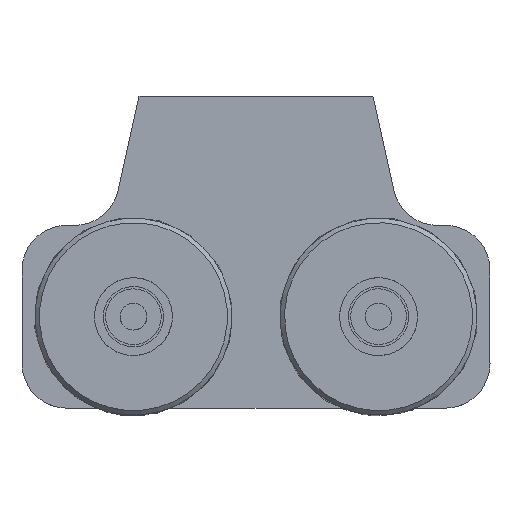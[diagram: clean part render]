
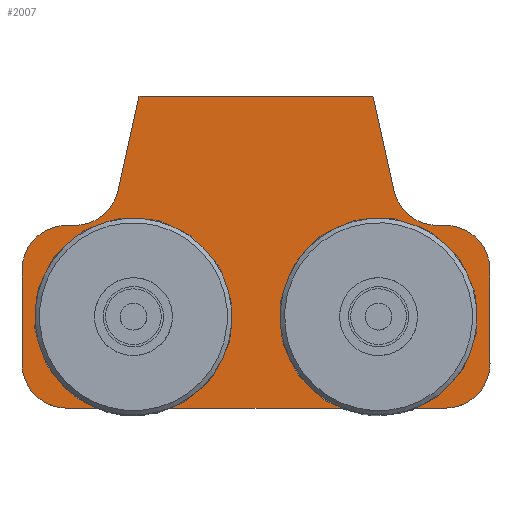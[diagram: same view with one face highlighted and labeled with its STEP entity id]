
A CAD part, top view. The second image highlights one B-rep face of the part: STEP entity #2007.
In plain terms, the highlighted planar face has unit normal (0, 0, 1).
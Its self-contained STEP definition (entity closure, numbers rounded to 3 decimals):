
#195=FACE_BOUND('',#530,.T.);
#196=FACE_BOUND('',#531,.T.);
#258=CIRCLE('',#2105,10.);
#260=CIRCLE('',#2111,10.);
#262=CIRCLE('',#2118,10.);
#264=CIRCLE('',#2124,10.);
#266=CIRCLE('',#2129,20.);
#268=CIRCLE('',#2133,20.);
#270=CIRCLE('',#2137,20.);
#272=CIRCLE('',#2141,20.);
#274=CIRCLE('',#2145,20.);
#276=CIRCLE('',#2149,20.);
#417=FACE_OUTER_BOUND('',#529,.T.);
#529=EDGE_LOOP('',(#1504,#1505,#1506,#1507,#1508,#1509,#1510,#1511,#1512,
#1513,#1514,#1515,#1516,#1517));
#530=EDGE_LOOP('',(#1518,#1519,#1520,#1521,#1522,#1523,#1524,#1525));
#531=EDGE_LOOP('',(#1526,#1527,#1528,#1529,#1530,#1531,#1532,#1533));
#683=LINE('',#2974,#799);
#686=LINE('',#2980,#802);
#689=LINE('',#2986,#805);
#693=LINE('',#2998,#809);
#696=LINE('',#3004,#812);
#699=LINE('',#3009,#815);
#701=LINE('',#3014,#817);
#706=LINE('',#3028,#822);
#709=LINE('',#3034,#825);
#712=LINE('',#3040,#828);
#716=LINE('',#3052,#832);
#719=LINE('',#3057,#835);
#723=LINE('',#3070,#839);
#727=LINE('',#3082,#843);
#731=LINE('',#3094,#847);
#735=LINE('',#3106,#851);
#739=LINE('',#3118,#855);
#743=LINE('',#3130,#859);
#746=LINE('',#3136,#862);
#749=LINE('',#3141,#865);
#799=VECTOR('',#2373,3.87);
#802=VECTOR('',#2378,8.);
#805=VECTOR('',#2383,3.87);
#809=VECTOR('',#2395,3.87);
#812=VECTOR('',#2400,8.);
#815=VECTOR('',#2405,3.87);
#817=VECTOR('',#2409,3.87);
#822=VECTOR('',#2422,3.87);
#825=VECTOR('',#2427,8.);
#828=VECTOR('',#2432,3.87);
#832=VECTOR('',#2444,3.87);
#835=VECTOR('',#2449,8.);
#839=VECTOR('',#2461,3.59);
#843=VECTOR('',#2473,42.);
#847=VECTOR('',#2485,170.);
#851=VECTOR('',#2497,42.);
#855=VECTOR('',#2509,3.59);
#859=VECTOR('',#2521,43.357);
#862=VECTOR('',#2526,105.);
#865=VECTOR('',#2531,43.357);
#909=VERTEX_POINT('',#2964);
#910=VERTEX_POINT('',#2965);
#913=VERTEX_POINT('',#2973);
#915=VERTEX_POINT('',#2979);
#917=VERTEX_POINT('',#2985);
#919=VERTEX_POINT('',#2991);
#921=VERTEX_POINT('',#2997);
#923=VERTEX_POINT('',#3003);
#925=VERTEX_POINT('',#3012);
#926=VERTEX_POINT('',#3013);
#929=VERTEX_POINT('',#3021);
#931=VERTEX_POINT('',#3027);
#933=VERTEX_POINT('',#3033);
#935=VERTEX_POINT('',#3039);
#937=VERTEX_POINT('',#3045);
#939=VERTEX_POINT('',#3051);
#941=VERTEX_POINT('',#3060);
#942=VERTEX_POINT('',#3061);
#945=VERTEX_POINT('',#3069);
#947=VERTEX_POINT('',#3075);
#949=VERTEX_POINT('',#3081);
#951=VERTEX_POINT('',#3087);
#953=VERTEX_POINT('',#3093);
#955=VERTEX_POINT('',#3099);
#957=VERTEX_POINT('',#3105);
#959=VERTEX_POINT('',#3111);
#961=VERTEX_POINT('',#3117);
#963=VERTEX_POINT('',#3123);
#965=VERTEX_POINT('',#3129);
#967=VERTEX_POINT('',#3135);
#1107=EDGE_CURVE('',#909,#910,#258,.T.);
#1111=EDGE_CURVE('',#910,#913,#683,.T.);
#1114=EDGE_CURVE('',#913,#915,#686,.T.);
#1117=EDGE_CURVE('',#915,#917,#689,.T.);
#1120=EDGE_CURVE('',#917,#919,#260,.T.);
#1123=EDGE_CURVE('',#919,#921,#693,.T.);
#1126=EDGE_CURVE('',#921,#923,#696,.T.);
#1129=EDGE_CURVE('',#923,#909,#699,.T.);
#1131=EDGE_CURVE('',#925,#926,#701,.T.);
#1135=EDGE_CURVE('',#926,#929,#262,.T.);
#1138=EDGE_CURVE('',#929,#931,#706,.T.);
#1141=EDGE_CURVE('',#931,#933,#709,.T.);
#1144=EDGE_CURVE('',#933,#935,#712,.T.);
#1147=EDGE_CURVE('',#935,#937,#264,.T.);
#1150=EDGE_CURVE('',#937,#939,#716,.T.);
#1153=EDGE_CURVE('',#939,#925,#719,.T.);
#1155=EDGE_CURVE('',#941,#942,#266,.T.);
#1159=EDGE_CURVE('',#942,#945,#723,.T.);
#1162=EDGE_CURVE('',#945,#947,#268,.T.);
#1165=EDGE_CURVE('',#947,#949,#727,.T.);
#1168=EDGE_CURVE('',#949,#951,#270,.T.);
#1171=EDGE_CURVE('',#951,#953,#731,.T.);
#1174=EDGE_CURVE('',#953,#955,#272,.T.);
#1177=EDGE_CURVE('',#955,#957,#735,.T.);
#1180=EDGE_CURVE('',#957,#959,#274,.T.);
#1183=EDGE_CURVE('',#959,#961,#739,.T.);
#1186=EDGE_CURVE('',#961,#963,#276,.T.);
#1189=EDGE_CURVE('',#963,#965,#743,.T.);
#1192=EDGE_CURVE('',#965,#967,#746,.T.);
#1195=EDGE_CURVE('',#967,#941,#749,.T.);
#1504=ORIENTED_EDGE('',*,*,#1155,.F.);
#1505=ORIENTED_EDGE('',*,*,#1195,.F.);
#1506=ORIENTED_EDGE('',*,*,#1192,.F.);
#1507=ORIENTED_EDGE('',*,*,#1189,.F.);
#1508=ORIENTED_EDGE('',*,*,#1186,.F.);
#1509=ORIENTED_EDGE('',*,*,#1183,.F.);
#1510=ORIENTED_EDGE('',*,*,#1180,.F.);
#1511=ORIENTED_EDGE('',*,*,#1177,.F.);
#1512=ORIENTED_EDGE('',*,*,#1174,.F.);
#1513=ORIENTED_EDGE('',*,*,#1171,.F.);
#1514=ORIENTED_EDGE('',*,*,#1168,.F.);
#1515=ORIENTED_EDGE('',*,*,#1165,.F.);
#1516=ORIENTED_EDGE('',*,*,#1162,.F.);
#1517=ORIENTED_EDGE('',*,*,#1159,.F.);
#1518=ORIENTED_EDGE('',*,*,#1107,.T.);
#1519=ORIENTED_EDGE('',*,*,#1111,.T.);
#1520=ORIENTED_EDGE('',*,*,#1114,.T.);
#1521=ORIENTED_EDGE('',*,*,#1117,.T.);
#1522=ORIENTED_EDGE('',*,*,#1120,.T.);
#1523=ORIENTED_EDGE('',*,*,#1123,.T.);
#1524=ORIENTED_EDGE('',*,*,#1126,.T.);
#1525=ORIENTED_EDGE('',*,*,#1129,.T.);
#1526=ORIENTED_EDGE('',*,*,#1131,.T.);
#1527=ORIENTED_EDGE('',*,*,#1135,.T.);
#1528=ORIENTED_EDGE('',*,*,#1138,.T.);
#1529=ORIENTED_EDGE('',*,*,#1141,.T.);
#1530=ORIENTED_EDGE('',*,*,#1144,.T.);
#1531=ORIENTED_EDGE('',*,*,#1147,.T.);
#1532=ORIENTED_EDGE('',*,*,#1150,.T.);
#1533=ORIENTED_EDGE('',*,*,#1153,.T.);
#1927=PLANE('',#2154);
#2007=ADVANCED_FACE('',(#417,#195,#196),#1927,.T.);
#2105=AXIS2_PLACEMENT_3D('',#2966,#2365,#2366);
#2111=AXIS2_PLACEMENT_3D('',#2992,#2388,#2389);
#2118=AXIS2_PLACEMENT_3D('',#3022,#2415,#2416);
#2124=AXIS2_PLACEMENT_3D('',#3046,#2437,#2438);
#2129=AXIS2_PLACEMENT_3D('',#3062,#2453,#2454);
#2133=AXIS2_PLACEMENT_3D('',#3076,#2466,#2467);
#2137=AXIS2_PLACEMENT_3D('',#3088,#2478,#2479);
#2141=AXIS2_PLACEMENT_3D('',#3100,#2490,#2491);
#2145=AXIS2_PLACEMENT_3D('',#3112,#2502,#2503);
#2149=AXIS2_PLACEMENT_3D('',#3124,#2514,#2515);
#2154=AXIS2_PLACEMENT_3D('',#3143,#2533,#2534);
#2365=DIRECTION('center_axis',(0.,0.,-1.));
#2366=DIRECTION('ref_axis',(-0.933,-0.36,0.));
#2373=DIRECTION('',(1.,0.,0.));
#2378=DIRECTION('',(0.,-1.,0.));
#2383=DIRECTION('',(-1.,0.,0.));
#2388=DIRECTION('center_axis',(0.,0.,-1.));
#2389=DIRECTION('ref_axis',(0.933,0.36,0.));
#2395=DIRECTION('',(-1.,0.,0.));
#2400=DIRECTION('',(0.,1.,0.));
#2405=DIRECTION('',(1.,0.,0.));
#2409=DIRECTION('',(1.,0.,0.));
#2415=DIRECTION('center_axis',(0.,0.,-1.));
#2416=DIRECTION('ref_axis',(0.933,0.36,0.));
#2422=DIRECTION('',(1.,0.,0.));
#2427=DIRECTION('',(0.,-1.,0.));
#2432=DIRECTION('',(-1.,0.,0.));
#2437=DIRECTION('center_axis',(0.,0.,-1.));
#2438=DIRECTION('ref_axis',(-0.933,-0.36,0.));
#2444=DIRECTION('',(-1.,0.,0.));
#2449=DIRECTION('',(0.,1.,0.));
#2453=DIRECTION('center_axis',(0.,0.,1.));
#2454=DIRECTION('ref_axis',(-0.976,-0.216,0.));
#2461=DIRECTION('',(1.,0.,0.));
#2466=DIRECTION('center_axis',(0.,0.,-1.));
#2467=DIRECTION('ref_axis',(-1.,0.,0.));
#2473=DIRECTION('',(0.,-1.,0.));
#2478=DIRECTION('center_axis',(0.,0.,-1.));
#2479=DIRECTION('ref_axis',(0.,1.,0.));
#2485=DIRECTION('',(-1.,0.,0.));
#2490=DIRECTION('center_axis',(0.,0.,-1.));
#2491=DIRECTION('ref_axis',(1.,0.,0.));
#2497=DIRECTION('',(0.,1.,0.));
#2502=DIRECTION('center_axis',(0.,0.,-1.));
#2503=DIRECTION('ref_axis',(0.,-1.,0.));
#2509=DIRECTION('',(1.,0.,0.));
#2514=DIRECTION('center_axis',(0.,0.,1.));
#2515=DIRECTION('ref_axis',(0.,-1.,0.));
#2521=DIRECTION('',(0.216,0.976,0.));
#2526=DIRECTION('',(1.,0.,0.));
#2531=DIRECTION('',(0.216,-0.976,0.));
#2533=DIRECTION('center_axis',(0.,0.,1.));
#2534=DIRECTION('ref_axis',(1.,0.,0.));
#2964=CARTESIAN_POINT('',(-64.33,4.,15.));
#2965=CARTESIAN_POINT('',(-45.67,4.,15.));
#2966=CARTESIAN_POINT('Origin',(-55.,0.4,15.));
#2973=CARTESIAN_POINT('',(-41.8,4.,15.));
#2974=CARTESIAN_POINT('',(-22.835,4.,15.));
#2979=CARTESIAN_POINT('',(-41.8,-4.,15.));
#2980=CARTESIAN_POINT('',(-41.8,12.274,15.));
#2985=CARTESIAN_POINT('',(-45.67,-4.,15.));
#2986=CARTESIAN_POINT('',(-20.9,-4.,15.));
#2991=CARTESIAN_POINT('',(-64.33,-4.,15.));
#2992=CARTESIAN_POINT('Origin',(-55.,-0.4,15.));
#2997=CARTESIAN_POINT('',(-68.2,-4.,15.));
#2998=CARTESIAN_POINT('',(-32.165,-4.,15.));
#3003=CARTESIAN_POINT('',(-68.2,4.,15.));
#3004=CARTESIAN_POINT('',(-68.2,8.274,15.));
#3009=CARTESIAN_POINT('',(-34.1,4.,15.));
#3012=CARTESIAN_POINT('',(41.8,4.,15.));
#3013=CARTESIAN_POINT('',(45.67,4.,15.));
#3014=CARTESIAN_POINT('',(20.9,4.,15.));
#3021=CARTESIAN_POINT('',(64.33,4.,15.));
#3022=CARTESIAN_POINT('Origin',(55.,0.4,15.));
#3027=CARTESIAN_POINT('',(68.2,4.,15.));
#3028=CARTESIAN_POINT('',(32.165,4.,15.));
#3033=CARTESIAN_POINT('',(68.2,-4.,15.));
#3034=CARTESIAN_POINT('',(68.2,12.274,15.));
#3039=CARTESIAN_POINT('',(64.33,-4.,15.));
#3040=CARTESIAN_POINT('',(34.1,-4.,15.));
#3045=CARTESIAN_POINT('',(45.67,-4.,15.));
#3046=CARTESIAN_POINT('Origin',(55.,-0.4,15.));
#3051=CARTESIAN_POINT('',(41.8,-4.,15.));
#3052=CARTESIAN_POINT('',(22.835,-4.,15.));
#3057=CARTESIAN_POINT('',(41.8,8.274,15.));
#3060=CARTESIAN_POINT('',(61.884,56.671,15.));
#3061=CARTESIAN_POINT('',(81.41,41.,15.));
#3062=CARTESIAN_POINT('Origin',(81.41,61.,15.));
#3069=CARTESIAN_POINT('',(85.,41.,15.));
#3070=CARTESIAN_POINT('',(81.41,41.,15.));
#3075=CARTESIAN_POINT('',(105.,21.,15.));
#3076=CARTESIAN_POINT('Origin',(85.,21.,15.));
#3081=CARTESIAN_POINT('',(105.,-21.,15.));
#3082=CARTESIAN_POINT('',(105.,21.,15.));
#3087=CARTESIAN_POINT('',(85.,-41.,15.));
#3088=CARTESIAN_POINT('Origin',(85.,-21.,15.));
#3093=CARTESIAN_POINT('',(-85.,-41.,15.));
#3094=CARTESIAN_POINT('',(85.,-41.,15.));
#3099=CARTESIAN_POINT('',(-105.,-21.,15.));
#3100=CARTESIAN_POINT('Origin',(-85.,-21.,15.));
#3105=CARTESIAN_POINT('',(-105.,21.,15.));
#3106=CARTESIAN_POINT('',(-105.,-21.,15.));
#3111=CARTESIAN_POINT('',(-85.,41.,15.));
#3112=CARTESIAN_POINT('Origin',(-85.,21.,15.));
#3117=CARTESIAN_POINT('',(-81.41,41.,15.));
#3118=CARTESIAN_POINT('',(-85.,41.,15.));
#3123=CARTESIAN_POINT('',(-61.884,56.671,15.));
#3124=CARTESIAN_POINT('Origin',(-81.41,61.,15.));
#3129=CARTESIAN_POINT('',(-52.5,99.,15.));
#3130=CARTESIAN_POINT('',(-61.884,56.671,15.));
#3135=CARTESIAN_POINT('',(52.5,99.,15.));
#3136=CARTESIAN_POINT('',(-52.5,99.,15.));
#3141=CARTESIAN_POINT('',(52.5,99.,15.));
#3143=CARTESIAN_POINT('Origin',(0.,20.549,15.));
